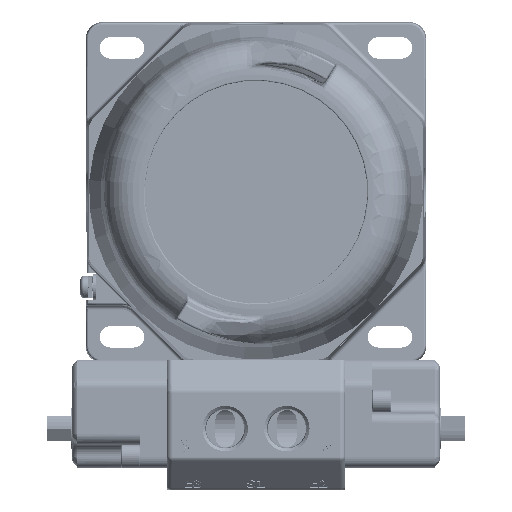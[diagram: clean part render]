
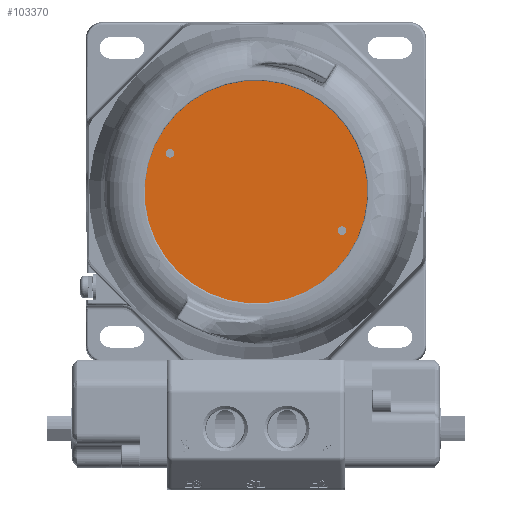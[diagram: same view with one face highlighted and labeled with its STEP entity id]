
A CAD part, top view. The second image highlights one B-rep face of the part: STEP entity #103370.
In plain terms, the highlighted planar face has unit normal (0, 0, 1) as drawn and (0, 1, 0) by its records, which use the part's own axes.
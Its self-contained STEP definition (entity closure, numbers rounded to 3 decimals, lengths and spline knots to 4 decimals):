
#2109=FACE_BOUND('',#18106,.T.);
#2110=FACE_BOUND('',#18107,.T.);
#3190=PLANE('',#111388);
#6798=CIRCLE('',#111288,1.625);
#6860=CIRCLE('',#111382,0.0625);
#6862=CIRCLE('',#111386,0.0625);
#11904=FACE_OUTER_BOUND('',#18105,.T.);
#18105=EDGE_LOOP('',(#75455));
#18106=EDGE_LOOP('',(#75456));
#18107=EDGE_LOOP('',(#75457));
#45187=VERTEX_POINT('',#198838);
#45265=VERTEX_POINT('',#200444);
#45267=VERTEX_POINT('',#200451);
#56167=EDGE_CURVE('',#45187,#45187,#6798,.T.);
#56301=EDGE_CURVE('',#45265,#45265,#6860,.T.);
#56304=EDGE_CURVE('',#45267,#45267,#6862,.T.);
#75455=ORIENTED_EDGE('',*,*,#56167,.T.);
#75456=ORIENTED_EDGE('',*,*,#56301,.T.);
#75457=ORIENTED_EDGE('',*,*,#56304,.T.);
#103370=ADVANCED_FACE('',(#11904,#2109,#2110),#3190,.F.);
#111288=AXIS2_PLACEMENT_3D('',#198840,#124834,#124835);
#111382=AXIS2_PLACEMENT_3D('',#200446,#125037,#125038);
#111386=AXIS2_PLACEMENT_3D('',#200453,#125046,#125047);
#111388=AXIS2_PLACEMENT_3D('',#200455,#125050,#125051);
#124834=DIRECTION('center_axis',(0.,1.,0.));
#124835=DIRECTION('ref_axis',(-1.,0.,0.));
#125037=DIRECTION('center_axis',(0.,-1.,0.));
#125038=DIRECTION('ref_axis',(-1.,0.,0.));
#125046=DIRECTION('center_axis',(0.,-1.,0.));
#125047=DIRECTION('ref_axis',(-1.,0.,0.));
#125050=DIRECTION('center_axis',(0.,-1.,0.));
#125051=DIRECTION('ref_axis',(0.,0.,-1.));
#198838=CARTESIAN_POINT('',(1.625,2.252,0.));
#198840=CARTESIAN_POINT('Origin',(0.,2.252,0.));
#200444=CARTESIAN_POINT('',(-1.3125,2.252,0.));
#200446=CARTESIAN_POINT('Origin',(-1.375,2.252,0.));
#200451=CARTESIAN_POINT('',(1.4375,2.252,0.));
#200453=CARTESIAN_POINT('Origin',(1.375,2.252,0.));
#200455=CARTESIAN_POINT('Origin',(0.,2.252,0.));
